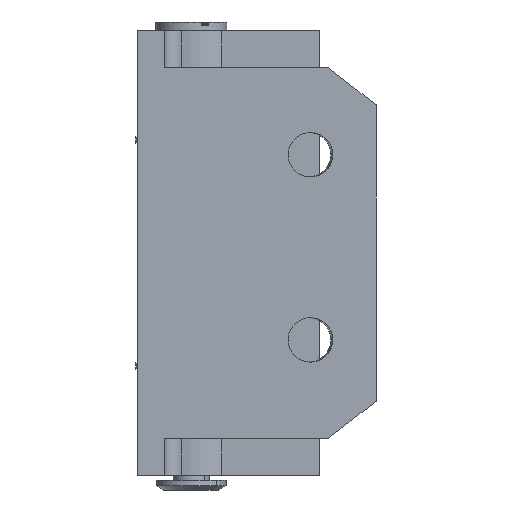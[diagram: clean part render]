
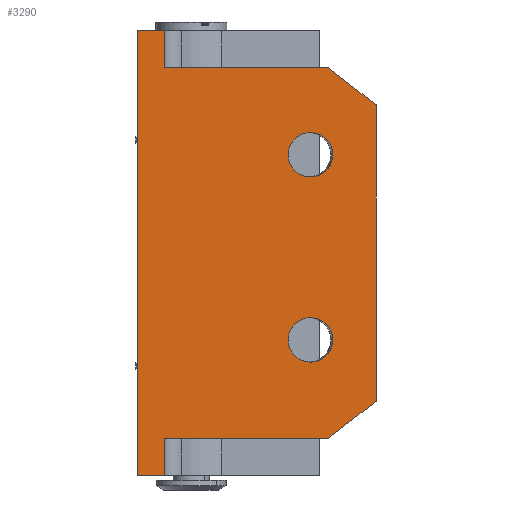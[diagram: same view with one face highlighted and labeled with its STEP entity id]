
A CAD part, front view. The second image highlights one B-rep face of the part: STEP entity #3290.
In plain terms, the highlighted planar face has unit normal (0, -1, 0).
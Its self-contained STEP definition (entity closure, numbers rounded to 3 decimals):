
#126 = CARTESIAN_POINT ( 'NONE',  ( -3.65, -32.75, 60. ) ) ;
#145 = EDGE_LOOP ( 'NONE', ( #2795, #4948, #4616, #2025, #4873, #2068, #4123, #3073, #1768, #3742 ) ) ;
#156 = CARTESIAN_POINT ( 'NONE',  ( -7.25, -32.75, 0. ) ) ;
#247 = VERTEX_POINT ( 'NONE', #156 ) ;
#305 = EDGE_LOOP ( 'NONE', ( #3024, #4598 ) ) ;
#323 = CARTESIAN_POINT ( 'NONE',  ( 0., -32.75, 55.1 ) ) ;
#338 = EDGE_LOOP ( 'NONE', ( #3754, #966 ) ) ;
#342 = CARTESIAN_POINT ( 'NONE',  ( 13.076, -32.75, 37.273 ) ) ;
#366 = VECTOR ( 'NONE', #2189, 1000. ) ;
#370 = CARTESIAN_POINT ( 'NONE',  ( 19.113, -32.75, 18.273 ) ) ;
#393 = VERTEX_POINT ( 'NONE', #2037 ) ;
#478 = VERTEX_POINT ( 'NONE', #4315 ) ;
#514 = LINE ( 'NONE', #2062, #1532 ) ;
#545 = EDGE_CURVE ( 'NONE', #1729, #2129, #2946, .T. ) ;
#595 = CARTESIAN_POINT ( 'NONE',  ( 13.076, -32.75, 12.273 ) ) ;
#625 = CARTESIAN_POINT ( 'NONE',  ( 13.076, -32.75, 18.273 ) ) ;
#632 = AXIS2_PLACEMENT_3D ( 'NONE', #3160, #4983, #3138 ) ;
#642 = VECTOR ( 'NONE', #4007, 1000. ) ;
#644 = LINE ( 'NONE', #2595, #366 ) ;
#680 = CARTESIAN_POINT ( 'NONE',  ( 19.113, -32.75, 12.273 ) ) ;
#734 = DIRECTION ( 'NONE',  ( 1., 0., 0. ) ) ;
#766 = EDGE_CURVE ( 'NONE', #393, #1340, #644, .T. ) ;
#828 = CARTESIAN_POINT ( 'NONE',  ( 24.95, -32.75, 60. ) ) ;
#966 = ORIENTED_EDGE ( 'NONE', *, *, #3551, .T. ) ;
#1028 = CARTESIAN_POINT ( 'NONE',  ( 13.076, -32.75, 49.273 ) ) ;
#1152 = VERTEX_POINT ( 'NONE', #1433 ) ;
#1180 = CARTESIAN_POINT ( 'NONE',  ( 13.076, -32.75, 43.273 ) ) ;
#1187 = DIRECTION ( 'NONE',  ( 0., 0., -1. ) ) ;
#1340 = VERTEX_POINT ( 'NONE', #3124 ) ;
#1391 = CARTESIAN_POINT ( 'NONE',  ( -7.25, -32.75, 60. ) ) ;
#1404 = CARTESIAN_POINT ( 'NONE',  ( 19.113, -32.75, 37.273 ) ) ;
#1433 = CARTESIAN_POINT ( 'NONE',  ( 24.95, -32.75, 10. ) ) ;
#1511 = FACE_BOUND ( 'NONE', #338, .T. ) ;
#1532 = VECTOR ( 'NONE', #2017, 1000. ) ;
#1729 = VERTEX_POINT ( 'NONE', #1927 ) ;
#1768 = ORIENTED_EDGE ( 'NONE', *, *, #4474, .T. ) ;
#1827 =( BOUNDED_CURVE ( )  B_SPLINE_CURVE ( 3, ( #1840, #680, #595, #625 ),
 .UNSPECIFIED., .F., .F. ) 
 B_SPLINE_CURVE_WITH_KNOTS ( ( 4, 4 ),
 ( 3.142, 6.283 ),
 .UNSPECIFIED. ) 
 CURVE ( )  GEOMETRIC_REPRESENTATION_ITEM ( )  RATIONAL_B_SPLINE_CURVE ( ( 1., 0.333, 0.333, 1. ) ) 
 REPRESENTATION_ITEM ( '' )  );
#1840 = CARTESIAN_POINT ( 'NONE',  ( 19.113, -32.75, 18.273 ) ) ;
#1891 = CARTESIAN_POINT ( 'NONE',  ( 19.113, -32.75, 24.273 ) ) ;
#1927 = CARTESIAN_POINT ( 'NONE',  ( -3.65, -32.75, 4.9 ) ) ;
#1969 = FACE_OUTER_BOUND ( 'NONE', #145, .T. ) ;
#2017 = DIRECTION ( 'NONE',  ( 0., 0., -1. ) ) ;
#2021 = VERTEX_POINT ( 'NONE', #3014 ) ;
#2025 = ORIENTED_EDGE ( 'NONE', *, *, #4480, .F. ) ;
#2037 = CARTESIAN_POINT ( 'NONE',  ( 18.45, -32.75, 55.1 ) ) ;
#2062 = CARTESIAN_POINT ( 'NONE',  ( -3.65, -32.75, 60. ) ) ;
#2068 = ORIENTED_EDGE ( 'NONE', *, *, #3117, .T. ) ;
#2111 = DIRECTION ( 'NONE',  ( 0., 0., -1. ) ) ;
#2126 = CARTESIAN_POINT ( 'NONE',  ( 18.45, -32.75, 4.9 ) ) ;
#2129 = VERTEX_POINT ( 'NONE', #3516 ) ;
#2155 = EDGE_CURVE ( 'NONE', #1340, #1152, #4297, .T. ) ;
#2186 =( BOUNDED_CURVE ( )  B_SPLINE_CURVE ( 3, ( #3108, #4581, #1891, #370 ),
 .UNSPECIFIED., .F., .T. ) 
 B_SPLINE_CURVE_WITH_KNOTS ( ( 4, 4 ),
 ( 0., 3.142 ),
 .UNSPECIFIED. ) 
 CURVE ( )  GEOMETRIC_REPRESENTATION_ITEM ( )  RATIONAL_B_SPLINE_CURVE ( ( 1., 0.333, 0.333, 1. ) ) 
 REPRESENTATION_ITEM ( '' )  );
#2189 = DIRECTION ( 'NONE',  ( 0.787, 0., -0.617 ) ) ;
#2348 = LINE ( 'NONE', #323, #3134 ) ;
#2398 = VECTOR ( 'NONE', #1187, 1000. ) ;
#2447 = EDGE_CURVE ( 'NONE', #3252, #478, #3680, .T. ) ;
#2498 = EDGE_CURVE ( 'NONE', #2514, #3768, #2186, .T. ) ;
#2500 = EDGE_CURVE ( 'NONE', #3570, #393, #2348, .T. ) ;
#2514 = VERTEX_POINT ( 'NONE', #2706 ) ;
#2527 = VECTOR ( 'NONE', #3327, 1000. ) ;
#2576 = CARTESIAN_POINT ( 'NONE',  ( 19.113, -32.75, 49.273 ) ) ;
#2591 = CARTESIAN_POINT ( 'NONE',  ( 33.789, -32.75, 16.935 ) ) ;
#2595 = CARTESIAN_POINT ( 'NONE',  ( 4.651, -32.75, 65.927 ) ) ;
#2632 = LINE ( 'NONE', #4819, #3307 ) ;
#2682 =( BOUNDED_CURVE ( )  B_SPLINE_CURVE ( 3, ( #4033, #1404, #342, #1180 ),
 .UNSPECIFIED., .F., .T. ) 
 B_SPLINE_CURVE_WITH_KNOTS ( ( 4, 4 ),
 ( 3.142, 6.283 ),
 .UNSPECIFIED. ) 
 CURVE ( )  GEOMETRIC_REPRESENTATION_ITEM ( )  RATIONAL_B_SPLINE_CURVE ( ( 1., 0.333, 0.333, 1. ) ) 
 REPRESENTATION_ITEM ( '' )  );
#2706 = CARTESIAN_POINT ( 'NONE',  ( 13.076, -32.75, 18.273 ) ) ;
#2780 = EDGE_CURVE ( 'NONE', #478, #3252, #2682, .T. ) ;
#2795 = ORIENTED_EDGE ( 'NONE', *, *, #766, .F. ) ;
#2853 = VECTOR ( 'NONE', #4096, 1000. ) ;
#2860 = VERTEX_POINT ( 'NONE', #4646 ) ;
#2943 = DIRECTION ( 'NONE',  ( 1., 0., 0. ) ) ;
#2946 = LINE ( 'NONE', #126, #4939 ) ;
#3014 = CARTESIAN_POINT ( 'NONE',  ( -3.65, -32.75, 60. ) ) ;
#3024 = ORIENTED_EDGE ( 'NONE', *, *, #2447, .T. ) ;
#3073 = ORIENTED_EDGE ( 'NONE', *, *, #3774, .F. ) ;
#3108 = CARTESIAN_POINT ( 'NONE',  ( 13.076, -32.75, 18.273 ) ) ;
#3117 = EDGE_CURVE ( 'NONE', #247, #2129, #2632, .T. ) ;
#3124 = CARTESIAN_POINT ( 'NONE',  ( 24.95, -32.75, 50. ) ) ;
#3134 = VECTOR ( 'NONE', #3891, 1000. ) ;
#3138 = DIRECTION ( 'NONE',  ( 0., 0., 1. ) ) ;
#3160 = CARTESIAN_POINT ( 'NONE',  ( 0., -32.75, 60. ) ) ;
#3252 = VERTEX_POINT ( 'NONE', #4706 ) ;
#3257 = CARTESIAN_POINT ( 'NONE',  ( 0., -32.75, 4.9 ) ) ;
#3290 = ADVANCED_FACE ( 'NONE', ( #4229, #1511, #1969 ), #3542, .F. ) ;
#3307 = VECTOR ( 'NONE', #734, 1000. ) ;
#3327 = DIRECTION ( 'NONE',  ( 0.787, 0., 0.617 ) ) ;
#3378 = CARTESIAN_POINT ( 'NONE',  ( 0., -32.75, 60. ) ) ;
#3516 = CARTESIAN_POINT ( 'NONE',  ( -3.65, -32.75, 0. ) ) ;
#3542 = PLANE ( 'NONE',  #632 ) ;
#3551 = EDGE_CURVE ( 'NONE', #3768, #2514, #1827, .T. ) ;
#3570 = VERTEX_POINT ( 'NONE', #4937 ) ;
#3680 =( BOUNDED_CURVE ( )  B_SPLINE_CURVE ( 3, ( #4501, #1028, #2576, #4121 ),
 .UNSPECIFIED., .F., .T. ) 
 B_SPLINE_CURVE_WITH_KNOTS ( ( 4, 4 ),
 ( 0., 3.142 ),
 .UNSPECIFIED. ) 
 CURVE ( )  GEOMETRIC_REPRESENTATION_ITEM ( )  RATIONAL_B_SPLINE_CURVE ( ( 1., 0.333, 0.333, 1. ) ) 
 REPRESENTATION_ITEM ( '' )  );
#3727 = LINE ( 'NONE', #1391, #2853 ) ;
#3742 = ORIENTED_EDGE ( 'NONE', *, *, #2155, .F. ) ;
#3754 = ORIENTED_EDGE ( 'NONE', *, *, #2498, .T. ) ;
#3768 = VERTEX_POINT ( 'NONE', #4654 ) ;
#3774 = EDGE_CURVE ( 'NONE', #4917, #1729, #4370, .T. ) ;
#3891 = DIRECTION ( 'NONE',  ( 1., 0., 0. ) ) ;
#3892 = EDGE_CURVE ( 'NONE', #2021, #3570, #514, .T. ) ;
#4007 = DIRECTION ( 'NONE',  ( -1., 0., 0. ) ) ;
#4033 = CARTESIAN_POINT ( 'NONE',  ( 19.113, -32.75, 43.273 ) ) ;
#4052 = LINE ( 'NONE', #2591, #2527 ) ;
#4096 = DIRECTION ( 'NONE',  ( 0., 0., -1. ) ) ;
#4121 = CARTESIAN_POINT ( 'NONE',  ( 19.113, -32.75, 43.273 ) ) ;
#4123 = ORIENTED_EDGE ( 'NONE', *, *, #545, .F. ) ;
#4229 = FACE_BOUND ( 'NONE', #305, .T. ) ;
#4230 = VECTOR ( 'NONE', #2943, 1000. ) ;
#4297 = LINE ( 'NONE', #828, #2398 ) ;
#4315 = CARTESIAN_POINT ( 'NONE',  ( 19.113, -32.75, 43.273 ) ) ;
#4370 = LINE ( 'NONE', #3257, #642 ) ;
#4474 = EDGE_CURVE ( 'NONE', #4917, #1152, #4052, .T. ) ;
#4480 = EDGE_CURVE ( 'NONE', #2860, #2021, #4871, .T. ) ;
#4501 = CARTESIAN_POINT ( 'NONE',  ( 13.076, -32.75, 43.273 ) ) ;
#4581 = CARTESIAN_POINT ( 'NONE',  ( 13.076, -32.75, 24.273 ) ) ;
#4598 = ORIENTED_EDGE ( 'NONE', *, *, #2780, .T. ) ;
#4616 = ORIENTED_EDGE ( 'NONE', *, *, #3892, .F. ) ;
#4646 = CARTESIAN_POINT ( 'NONE',  ( -7.25, -32.75, 60. ) ) ;
#4654 = CARTESIAN_POINT ( 'NONE',  ( 19.113, -32.75, 18.273 ) ) ;
#4706 = CARTESIAN_POINT ( 'NONE',  ( 13.076, -32.75, 43.273 ) ) ;
#4809 = EDGE_CURVE ( 'NONE', #2860, #247, #3727, .T. ) ;
#4819 = CARTESIAN_POINT ( 'NONE',  ( 0., -32.75, 0. ) ) ;
#4871 = LINE ( 'NONE', #3378, #4230 ) ;
#4873 = ORIENTED_EDGE ( 'NONE', *, *, #4809, .T. ) ;
#4917 = VERTEX_POINT ( 'NONE', #2126 ) ;
#4937 = CARTESIAN_POINT ( 'NONE',  ( -3.65, -32.75, 55.1 ) ) ;
#4939 = VECTOR ( 'NONE', #2111, 1000. ) ;
#4948 = ORIENTED_EDGE ( 'NONE', *, *, #2500, .F. ) ;
#4983 = DIRECTION ( 'NONE',  ( 0., 1., 0. ) ) ;
